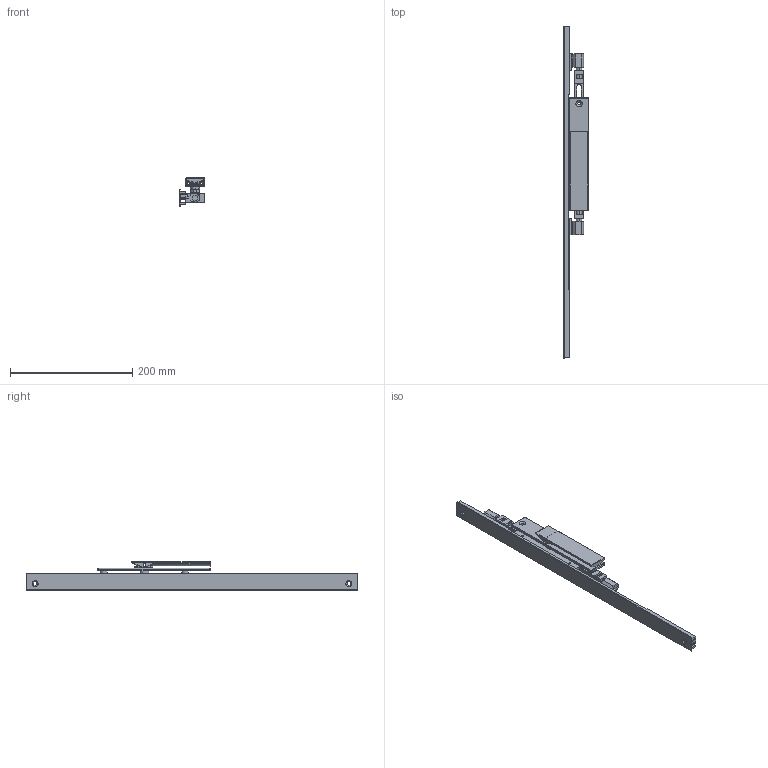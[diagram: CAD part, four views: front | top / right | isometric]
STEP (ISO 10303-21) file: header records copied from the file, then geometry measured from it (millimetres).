
FILE_DESCRIPTION (( 'STEP AP214' ), '1' );
FILE_NAME ('TPL-W-502-L 19July2024.STEP', '2024-12-04T23:54:23', ( '' ), ( '' ), 'SwSTEP 2.0', 'SolidWorks 2023', '' );
FILE_SCHEMA (( 'AUTOMOTIVE_DESIGN' ));
Length unit declared in the file: millimetre
Products named in the file (16): Copy of Copy of Copy of LKC-531 Lock twinpoint transmission rod wood system^TPL-W-002 19July2024_Standard Range 2891.7mm; Copy of Escutcheon plate unkeyed 185mm - simplified^Copy of TPGen2 handle non-keyed - simplified_TPL-W-002 19July2024; TPL-W-502-L 19July2024; Copy of TPLGen2 lock body non-keyed assembly^TPL-W-002 19July2024_Bolts extended; Copy (2) of COV-112-B Cover B suit TPLGen2 standard range^TPL-W-002 19July2024_2870mm; Copy of Handle sub-assembly - simplified^Copy of TPGen2 handle non-keyed - simplified_TPL-W-002 19July2024; Copy of Adapter DnF - simplfied^TPL-W-002 19July2024_26mm backset; Bolt(2)^TPL-W-002 19July2024; Copy of LKC-547 Spindle - simplified^Copy of TPGen2 handle non-keyed - simplified_TPL-W-002 19July2024_C - 15mm; Copy of COV-112-A Cover A suit TPLGen2 standard range^TPL-W-002 19July2024_1335mm; Copy of TPLGen2 push rod - simplified^Copy of TPLGen2 lock body non-keyed assembly_TPL-W-002 19July2024_Female thread M10; Copy of TPGen2 handle non-keyed - simplified^TPL-W-002 19July2024_Vertical; Copy of COV-112-C Cover C TPLGen2 Lock body^TPL-W-002 19July2024; Copy of Copy of LKC-531 Lock twinpoint transmission rod wood system^TPL-W-002 19July2024_Standard Range 2891.7mm; Copy of Adapter CnE - simplfied^TPL-W-002 19July2024_26mm backset; Copy of TPLGen2 lock body non-keyed^Copy of TPLGen2 lock body non-keyed assembly_TPL-W-002 19July2024
Assembly tree (13 placements, depth 3):
  TPL-W-502-L 19July2024
    Copy of TPLGen2 lock body non-keyed assembly^TPL-W-002 19July2024_Bolts extended
      Copy of TPLGen2 lock body non-keyed^Copy of TPLGen2 lock body non-keyed assembly_TPL-W-002 19July2024
      Copy of TPLGen2 push rod - simplified^Copy of TPLGen2 lock body non-keyed assembly_TPL-W-002 19July2024_Female thread M10  x2
    Copy of TPGen2 handle non-keyed - simplified^TPL-W-002 19July2024_Vertical
      Copy of Escutcheon plate unkeyed 185mm - simplified^Copy of TPGen2 handle non-keyed - simplified_TPL-W-002 19July2024
      Copy of Handle sub-assembly - simplified^Copy of TPGen2 handle non-keyed - simplified_TPL-W-002 19July2024
      Copy of LKC-547 Spindle - simplified^Copy of TPGen2 handle non-keyed - simplified_TPL-W-002 19July2024_C - 15mm
    Copy of COV-112-C Cover C TPLGen2 Lock body^TPL-W-002 19July2024
    Copy of Copy of LKC-531 Lock twinpoint transmission rod wood system^TPL-W-002 19July2024_Standard Range 2891.7mm
    Copy of Copy of Copy of LKC-531 Lock twinpoint transmission rod wood system^TPL-W-002 19July2024_Standard Range 2891.7mm
    Copy of Adapter DnF - simplfied^TPL-W-002 19July2024_26mm backset
    Copy of Adapter CnE - simplfied^TPL-W-002 19July2024_26mm backset
  Copy (2) of COV-112-B Cover B suit TPLGen2 standard range^TPL-W-002 19July2024_2870mm
  Bolt(2)^TPL-W-002 19July2024
  Copy of COV-112-A Cover A suit TPLGen2 standard range^TPL-W-002 19July2024_1335mm
Bounding box: 42 x 544 x 45.97 mm (x, y, z)
Volume: 208131.5 mm3; surface area: 118282 mm2
Topology: 12 solids, 12 shells, 637 faces, 1619 edges, 1023 vertices
Faces by surface type: plane 297, cylinder 199, bspline 77, torus 32, cone 20, sphere 12
Entity records: 19175 total; most frequent: CARTESIAN_POINT 4453, ORIENTED_EDGE 3022, DIRECTION 2875, EDGE_CURVE 1511, AXIS2_PLACEMENT_3D 993, VERTEX_POINT 963, LINE 889, VECTOR 889
